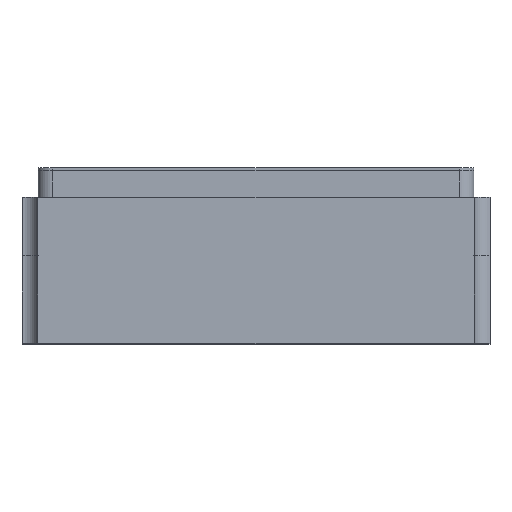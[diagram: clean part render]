
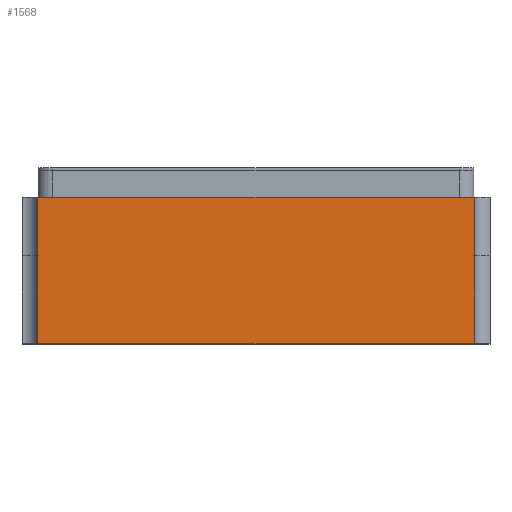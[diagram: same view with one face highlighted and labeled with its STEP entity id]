
A CAD part, top view. The second image highlights one B-rep face of the part: STEP entity #1568.
In plain terms, the highlighted planar face has unit normal (0, 0, 1).
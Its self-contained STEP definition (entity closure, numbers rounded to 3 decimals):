
#2 = EDGE_CURVE ( 'NONE', #1025, #4036, #3227, .T. ) ;
#100 = PLANE ( 'NONE',  #1491 ) ;
#102 = CARTESIAN_POINT ( 'NONE',  ( 1.6, -1., 1.25 ) ) ;
#126 = CARTESIAN_POINT ( 'NONE',  ( -1.493, -0.4, 1.25 ) ) ;
#275 = VECTOR ( 'NONE', #3822, 1000. ) ;
#350 = LINE ( 'NONE', #2944, #2358 ) ;
#374 = ORIENTED_EDGE ( 'NONE', *, *, #2, .T. ) ;
#388 = CARTESIAN_POINT ( 'NONE',  ( 1.6, 0., 1.25 ) ) ;
#409 = DIRECTION ( 'NONE',  ( 1., 0., 0. ) ) ;
#452 = LINE ( 'NONE', #2088, #614 ) ;
#614 = VECTOR ( 'NONE', #1471, 1000. ) ;
#648 = CARTESIAN_POINT ( 'NONE',  ( -1.493, -1., 1.25 ) ) ;
#712 = ORIENTED_EDGE ( 'NONE', *, *, #1013, .T. ) ;
#769 = DIRECTION ( 'NONE',  ( 1., 0., 0. ) ) ;
#791 = LINE ( 'NONE', #3059, #1558 ) ;
#832 = CARTESIAN_POINT ( 'NONE',  ( 1.493, 0., 1.25 ) ) ;
#1013 = EDGE_CURVE ( 'NONE', #1489, #3026, #3243, .T. ) ;
#1025 = VERTEX_POINT ( 'NONE', #2942 ) ;
#1039 = ORIENTED_EDGE ( 'NONE', *, *, #3889, .F. ) ;
#1115 = FACE_OUTER_BOUND ( 'NONE', #3552, .T. ) ;
#1132 = ORIENTED_EDGE ( 'NONE', *, *, #4016, .F. ) ;
#1278 = ORIENTED_EDGE ( 'NONE', *, *, #3171, .F. ) ;
#1411 = ORIENTED_EDGE ( 'NONE', *, *, #2119, .T. ) ;
#1471 = DIRECTION ( 'NONE',  ( 0., -1., 0. ) ) ;
#1489 = VERTEX_POINT ( 'NONE', #648 ) ;
#1491 = AXIS2_PLACEMENT_3D ( 'NONE', #3970, #3266, #769 ) ;
#1558 = VECTOR ( 'NONE', #3880, 1000. ) ;
#1568 = ADVANCED_FACE ( 'NONE', ( #1115 ), #100, .T. ) ;
#1820 = CARTESIAN_POINT ( 'NONE',  ( 1.493, -1., 1.25 ) ) ;
#1982 = DIRECTION ( 'NONE',  ( 0., -1., 0. ) ) ;
#2071 = VECTOR ( 'NONE', #409, 1000. ) ;
#2088 = CARTESIAN_POINT ( 'NONE',  ( 1.493, 0., 1.25 ) ) ;
#2119 = EDGE_CURVE ( 'NONE', #4036, #1489, #791, .T. ) ;
#2358 = VECTOR ( 'NONE', #1982, 1000. ) ;
#2534 = VERTEX_POINT ( 'NONE', #3864 ) ;
#2942 = CARTESIAN_POINT ( 'NONE',  ( -1.493, 0., 1.25 ) ) ;
#2944 = CARTESIAN_POINT ( 'NONE',  ( 1.493, -0.4, 1.25 ) ) ;
#2951 = VECTOR ( 'NONE', #3534, 1000. ) ;
#3026 = VERTEX_POINT ( 'NONE', #1820 ) ;
#3059 = CARTESIAN_POINT ( 'NONE',  ( -1.493, -0.4, 1.25 ) ) ;
#3171 = EDGE_CURVE ( 'NONE', #1025, #4022, #3442, .T. ) ;
#3227 = LINE ( 'NONE', #3838, #275 ) ;
#3243 = LINE ( 'NONE', #102, #2071 ) ;
#3266 = DIRECTION ( 'NONE',  ( 0., 0., 1. ) ) ;
#3442 = LINE ( 'NONE', #388, #2951 ) ;
#3534 = DIRECTION ( 'NONE',  ( 1., 0., 0. ) ) ;
#3552 = EDGE_LOOP ( 'NONE', ( #1132, #1278, #374, #1411, #712, #1039 ) ) ;
#3822 = DIRECTION ( 'NONE',  ( 0., -1., 0. ) ) ;
#3838 = CARTESIAN_POINT ( 'NONE',  ( -1.493, 0., 1.25 ) ) ;
#3864 = CARTESIAN_POINT ( 'NONE',  ( 1.493, -0.4, 1.25 ) ) ;
#3880 = DIRECTION ( 'NONE',  ( 0., -1., 0. ) ) ;
#3889 = EDGE_CURVE ( 'NONE', #2534, #3026, #350, .T. ) ;
#3970 = CARTESIAN_POINT ( 'NONE',  ( 1.6, -1., 1.25 ) ) ;
#4016 = EDGE_CURVE ( 'NONE', #4022, #2534, #452, .T. ) ;
#4022 = VERTEX_POINT ( 'NONE', #832 ) ;
#4036 = VERTEX_POINT ( 'NONE', #126 ) ;
